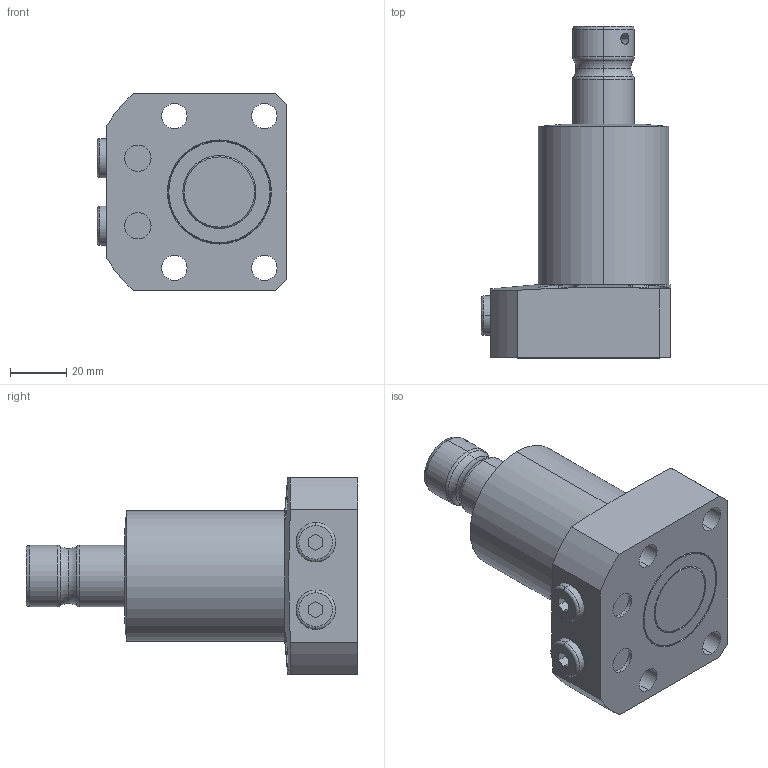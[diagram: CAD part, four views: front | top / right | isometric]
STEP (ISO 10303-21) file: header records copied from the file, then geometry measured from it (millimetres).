
FILE_DESCRIPTION (( 'STEP AP203' ), '1' );
FILE_NAME ('221001-CL.STEP', '2019-06-29T08:03:38', ( '微软用户' ), ( '微软中国' ), 'SwSTEP 2.0', 'SolidWorks 2014', '' );
FILE_SCHEMA (( 'CONFIG_CONTROL_DESIGN' ));
Length unit declared in the file: millimetre
Products named in the file (5): 葩璃 231001.01^221001-CL; 葩璃 231001.04^221001-CL; 221001-CL; 葩璃 221001.02^221001-CL; 葩璃 4BN-02WD^221001-CL
Assembly tree (5 placements, depth 2):
  221001-CL
    葩璃 221001.02^221001-CL
    葩璃 4BN-02WD^221001-CL  x2
    葩璃 231001.01^221001-CL
    葩璃 231001.04^221001-CL
Bounding box: 67.5 x 118 x 70 mm (x, y, z)
Volume: 233080 mm3; surface area: 36026.2 mm2
Topology: 5 solids, 5 shells, 140 faces, 294 edges, 182 vertices
Faces by surface type: cylinder 54, plane 46, cone 20, torus 20
Entity records: 4098 total; most frequent: CARTESIAN_POINT 1009, DIRECTION 590, ORIENTED_EDGE 480, AXIS2_PLACEMENT_3D 248, EDGE_CURVE 240, VERTEX_POINT 150, EDGE_LOOP 138, CIRCLE 126
